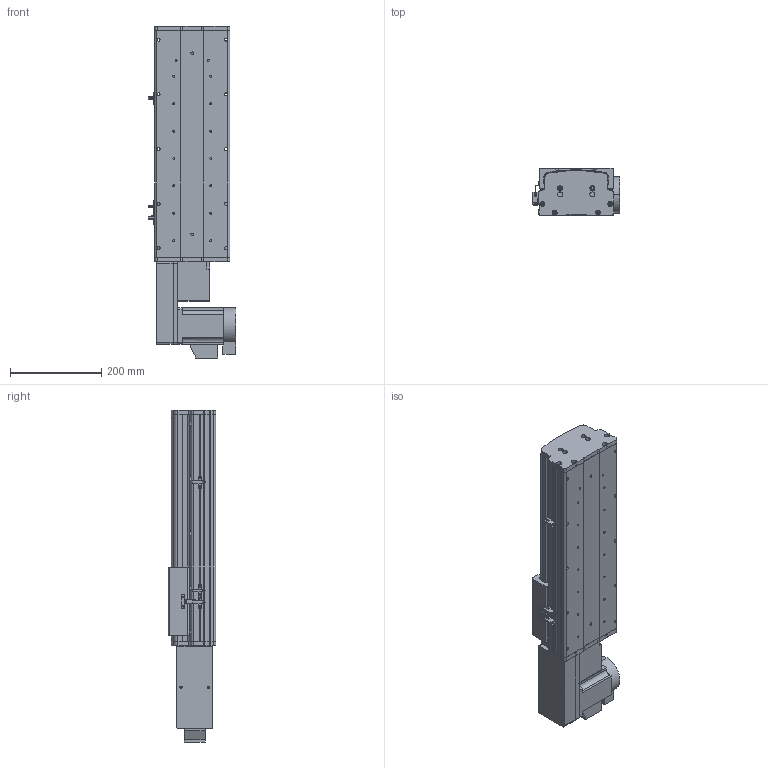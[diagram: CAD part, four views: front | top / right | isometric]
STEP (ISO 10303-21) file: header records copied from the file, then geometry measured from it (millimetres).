
FILE_DESCRIPTION (( 'STEP AP214' ), '1' );
FILE_NAME ('KSD165B-S250-MLB-CM .STEP', '2017-10-16T05:46:59', ( '微软用户' ), ( '微软中国' ), 'SwSTEP 2.0', 'SolidWorks 2014', '' );
FILE_SCHEMA (( 'AUTOMOTIVE_DESIGN' ));
Length unit declared in the file: millimetre
Products named in the file (17): KSD165耀郪-ヶ傷啣1-肮祭湍; KSD165模组-后端板1-同步带; KSD165模组-同步带滑动座-最新版; KSD165B-S250-MLB-CM ; HTPA26S5M250-A-H8 750W萇儂蚚; HTPA26S5M250-A-H8 400W萇儂蚚 ; 130宽模组马达安装板连板左右折同步带; 130宽模组保护罩上下左右折-同步带; 165宽马达安装板同步带左-改; KSD165模组-同步带防尘盖1-250行程-最新版; KSD165模组同步带底板-250行程-最新; 拸秶雄ん750W侜督萇儂; U倰嫖萇假蚾璃; U倰嫖萇EEㄜSX672; 覜茼え68遵圉猾敕; KSD165模组-同步带-防撞垫2; KSD165模组同步带-防撞垫1
Assembly tree (20 placements, depth 2):
  KSD165B-S250-MLB-CM 
    KSD165模组-同步带滑动座-最新版
    KSD165模组-后端板1-同步带
    KSD165耀郪-ヶ傷啣1-肮祭湍
    KSD165模组同步带-防撞垫1
    KSD165模组-同步带-防撞垫2
    覜茼え68遵圉猾敕
    U倰嫖萇EEㄜSX672  x3
    U倰嫖萇假蚾璃  x3
    拸秶雄ん750W侜督萇儂
    KSD165模组同步带底板-250行程-最新
    KSD165模组-同步带防尘盖1-250行程-最新版
    165宽马达安装板同步带左-改
    130宽模组保护罩上下左右折-同步带
    130宽模组马达安装板连板左右折同步带
    HTPA26S5M250-A-H8 400W萇儂蚚 
    HTPA26S5M250-A-H8 750W萇儂蚚
Bounding box: 191.2 x 104 x 728 mm (x, y, z)
Volume: 4530275.4 mm3; surface area: 1045517 mm2
Topology: 21 solids, 22 shells, 1867 faces, 5250 edges, 3424 vertices
Faces by surface type: cylinder 1177, plane 578, cone 112
Entity records: 59632 total; most frequent: CARTESIAN_POINT 12234, DIRECTION 9882, ORIENTED_EDGE 9160, EDGE_CURVE 4580, AXIS2_PLACEMENT_3D 3862, VERTEX_POINT 3016, CIRCLE 2192, LINE 2158
